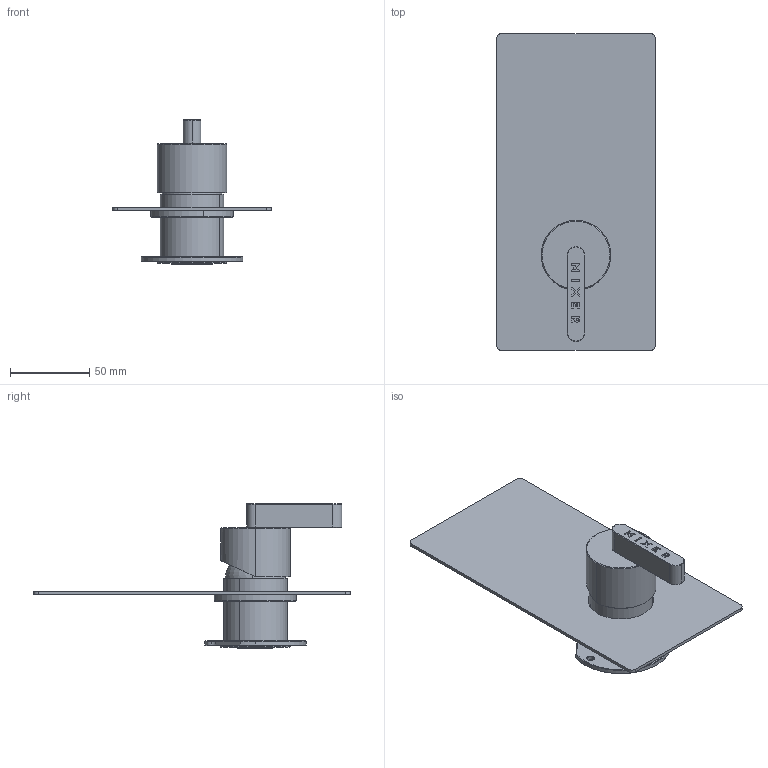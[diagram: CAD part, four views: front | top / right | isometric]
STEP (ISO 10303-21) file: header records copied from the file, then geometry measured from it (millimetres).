
FILE_DESCRIPTION (( 'STEP AP203' ), '1' );
FILE_NAME ('EMK1.STEP', '2024-01-10T08:58:37', ( '' ), ( '' ), 'SwSTEP 2.0', 'SolidWorks 2023', '' );
FILE_SCHEMA (( 'CONFIG_CONTROL_DESIGN' ));
Length unit declared in the file: millimetre
Products named in the file (18): C24.1837.00.0; C11.10.0025; AS747_00; C24.1830.00.0; AS1076; C31.00.0006.01; C10.00.0015; EMK1; C12.00.0057; C11.15.0006; C25.2056.00.0; GRANCO M4x4 ACCIAIO; C25.2693.00; AS816_00; C24.2033.00.0; C24.2035.00.0; C47.00.0015; C47.00.0023.01
Assembly tree (17 placements, depth 3):
  EMK1
    AS1076
      C25.2693.00
      C25.2056.00.0
    AS747_00
      C47.00.0015
      C10.00.0015
      C24.1830.00.0
      C12.00.0057
      C24.1837.00.0
      C31.00.0006.01
    AS816_00
      C24.2035.00.0
      C11.15.0006
      C11.10.0025
      C24.2033.00.0
    GRANCO M4x4 ACCIAIO
    C47.00.0023.01
Bounding box: 100 x 200 x 91.2 mm (x, y, z)
Volume: 121695 mm3; surface area: 91370.1 mm2
Topology: 15 solids, 15 shells, 591 faces, 1430 edges, 899 vertices
Faces by surface type: cylinder 236, plane 198, cone 99, bspline 34, torus 24
Entity records: 20698 total; most frequent: CARTESIAN_POINT 4684, DIRECTION 3145, ORIENTED_EDGE 2840, EDGE_CURVE 1420, AXIS2_PLACEMENT_3D 1237, VERTEX_POINT 899, EDGE_LOOP 673, LINE 671
